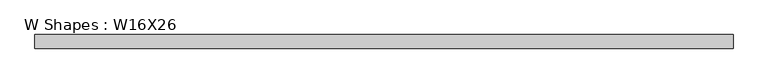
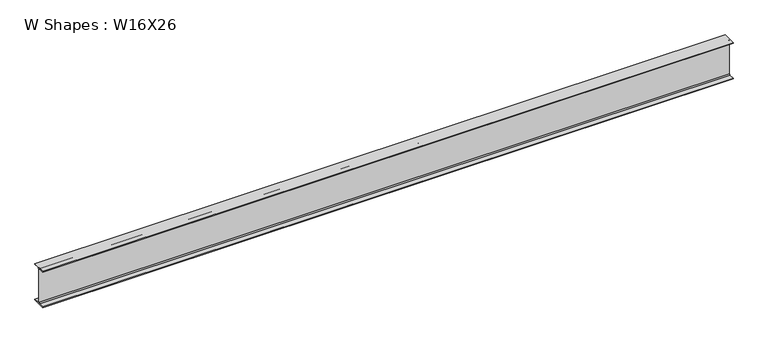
"""IFC4 building model written with IfcOpenShell, lengths in millimetres: beam geometry, W Shapes : W16X26."""

from ifc_helpers import new_model, si_unit, point, frame, frame_2d, origin, place, context, project, spatial, polyline, circle_curve, trimmed, segment, composite_curve, outline, extrude, source, transform, mapped, element, save


def w_shapes_w16x26_e367a1e3(model_context):
    return source(origin(), model_context, "Body", "SweptSolid", [
        extrude(outline(composite_curve([segment(polyline([(69.85, -190.627), (69.85, -199.39), (-69.85, -199.39), (-69.85, -190.627), (-13.3858, -190.627)]), True, "CONTINUOUS"), segment(trimmed(circle_curve(frame_2d((-13.3858, -180.4162)), 10.2108), [point((-13.3858, -190.627))], [point((-3.175, -180.4162))], True, "CARTESIAN"), True, "CONTINUOUS"), segment(polyline([(-3.175, -180.4162), (-3.175, 180.4162)]), True, "CONTINUOUS"), segment(trimmed(circle_curve(frame_2d((-13.3858, 180.4162)), 10.2108), [point((-3.175, 180.4162))], [point((-13.3858, 190.627))], True, "CARTESIAN"), True, "CONTINUOUS"), segment(polyline([(-13.3858, 190.627), (-69.85, 190.627), (-69.85, 199.39), (69.85, 199.39), (69.85, 190.627), (13.3858, 190.627)]), True, "CONTINUOUS"), segment(trimmed(circle_curve(frame_2d((13.3858, 180.4162)), 10.2108), [point((13.3858, 190.627))], [point((3.175, 180.4162))], True, "CARTESIAN"), True, "CONTINUOUS"), segment(polyline([(3.175, 180.4162), (3.175, -180.4162)]), True, "CONTINUOUS"), segment(trimmed(circle_curve(frame_2d((13.3858, -180.4162)), 10.2108), [point((3.175, -180.4162))], [point((13.3858, -190.627))], True, "CARTESIAN"), True, "CONTINUOUS"), segment(polyline([(13.3858, -190.627), (69.85, -190.627)]), True, "CONTINUOUS")], self_intersect=False)), frame((-3584.829, 0.0, 0.0), z_axis=(1.0, 0.0, 0.0), x_axis=(0.0, 1.0, 0.0)), (0.0, 0.0, 1.0), 7166.229),
    ])


if __name__ == "__main__":
    model = new_model("IFC4")
    model_context = context("Model", 3, world=origin())
    ifc_project = project(units=[si_unit("LENGTHUNIT", "METRE", prefix="MILLI")], contexts=[model_context])
    site = spatial("IfcSite", under=ifc_project)
    building = spatial("IfcBuilding", under=site)
    placement = place(None, origin())
    w_shapes_w16x26_shape = w_shapes_w16x26_e367a1e3(model_context)
    element("IfcBeam", 1, ObjectType="W Shapes : W16X26", at=placement, inside=building, context=model_context, shape_type="MappedRepresentation", body=[
        mapped(w_shapes_w16x26_shape, transform((0.0, 0.0, 0.0), x_axis=(1.0, 0.0, 0.0), y_axis=(0.0, 1.0, 0.0), z_axis=(0.0, 0.0, 1.0))),
    ])
    save(model, "model.ifc")
